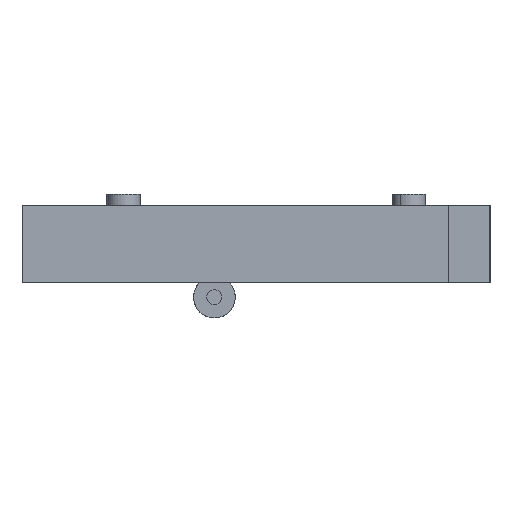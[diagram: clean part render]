
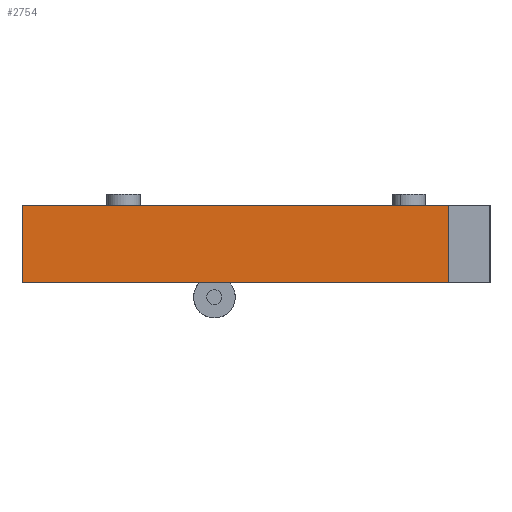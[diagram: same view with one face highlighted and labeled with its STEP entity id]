
A CAD part, left-side view. The second image highlights one B-rep face of the part: STEP entity #2754.
In plain terms, the highlighted planar face has unit normal (-1, 0, 0).
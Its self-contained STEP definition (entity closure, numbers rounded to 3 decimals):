
#73 = PLANE('',#74);
#74 = AXIS2_PLACEMENT_3D('',#75,#76,#77);
#75 = CARTESIAN_POINT('',(-70.39,-17.903,-18.));
#76 = DIRECTION('',(0.,0.,1.));
#77 = DIRECTION('',(1.,0.,-0.));
#334 = VERTEX_POINT('',#335);
#335 = CARTESIAN_POINT('',(-70.39,64.097,-18.));
#349 = PLANE('',#350);
#350 = AXIS2_PLACEMENT_3D('',#351,#352,#353);
#351 = CARTESIAN_POINT('',(-70.39,64.097,-18.));
#352 = DIRECTION('',(-0.,1.,0.));
#353 = DIRECTION('',(0.,0.,1.));
#361 = EDGE_CURVE('',#362,#334,#364,.T.);
#362 = VERTEX_POINT('',#363);
#363 = CARTESIAN_POINT('',(-70.39,-17.903,-18.));
#364 = SURFACE_CURVE('',#365,(#369,#376),.PCURVE_S1.);
#365 = LINE('',#366,#367);
#366 = CARTESIAN_POINT('',(-70.39,-17.903,-18.));
#367 = VECTOR('',#368,1.);
#368 = DIRECTION('',(-0.,1.,0.));
#369 = PCURVE('',#73,#370);
#370 = DEFINITIONAL_REPRESENTATION('',(#371),#375);
#371 = LINE('',#372,#373);
#372 = CARTESIAN_POINT('',(0.,0.));
#373 = VECTOR('',#374,1.);
#374 = DIRECTION('',(0.,1.));
#375 = ( GEOMETRIC_REPRESENTATION_CONTEXT(2) 
PARAMETRIC_REPRESENTATION_CONTEXT() REPRESENTATION_CONTEXT('2D SPACE',''
  ) );
#376 = PCURVE('',#377,#382);
#377 = PLANE('',#378);
#378 = AXIS2_PLACEMENT_3D('',#379,#380,#381);
#379 = CARTESIAN_POINT('',(-70.39,-17.903,-18.));
#380 = DIRECTION('',(1.,0.,-0.));
#381 = DIRECTION('',(0.,0.,1.));
#382 = DEFINITIONAL_REPRESENTATION('',(#383),#387);
#383 = LINE('',#384,#385);
#384 = CARTESIAN_POINT('',(0.,0.));
#385 = VECTOR('',#386,1.);
#386 = DIRECTION('',(0.,-1.));
#387 = ( GEOMETRIC_REPRESENTATION_CONTEXT(2) 
PARAMETRIC_REPRESENTATION_CONTEXT() REPRESENTATION_CONTEXT('2D SPACE',''
  ) );
#405 = PLANE('',#406);
#406 = AXIS2_PLACEMENT_3D('',#407,#408,#409);
#407 = CARTESIAN_POINT('',(-70.39,-17.903,-18.));
#408 = DIRECTION('',(-0.,1.,0.));
#409 = DIRECTION('',(0.,0.,1.));
#1532 = PLANE('',#1533);
#1533 = AXIS2_PLACEMENT_3D('',#1534,#1535,#1536);
#1534 = CARTESIAN_POINT('',(-70.39,-17.903,-3.15));
#1535 = DIRECTION('',(0.,0.,1.));
#1536 = DIRECTION('',(1.,0.,-0.));
#2710 = EDGE_CURVE('',#362,#2711,#2713,.T.);
#2711 = VERTEX_POINT('',#2712);
#2712 = CARTESIAN_POINT('',(-70.39,-17.903,-3.15));
#2713 = SURFACE_CURVE('',#2714,(#2718,#2725),.PCURVE_S1.);
#2714 = LINE('',#2715,#2716);
#2715 = CARTESIAN_POINT('',(-70.39,-17.903,-18.));
#2716 = VECTOR('',#2717,1.);
#2717 = DIRECTION('',(0.,0.,1.));
#2718 = PCURVE('',#405,#2719);
#2719 = DEFINITIONAL_REPRESENTATION('',(#2720),#2724);
#2720 = LINE('',#2721,#2722);
#2721 = CARTESIAN_POINT('',(0.,0.));
#2722 = VECTOR('',#2723,1.);
#2723 = DIRECTION('',(1.,0.));
#2724 = ( GEOMETRIC_REPRESENTATION_CONTEXT(2) 
PARAMETRIC_REPRESENTATION_CONTEXT() REPRESENTATION_CONTEXT('2D SPACE',''
  ) );
#2725 = PCURVE('',#377,#2726);
#2726 = DEFINITIONAL_REPRESENTATION('',(#2727),#2731);
#2727 = LINE('',#2728,#2729);
#2728 = CARTESIAN_POINT('',(0.,0.));
#2729 = VECTOR('',#2730,1.);
#2730 = DIRECTION('',(1.,0.));
#2731 = ( GEOMETRIC_REPRESENTATION_CONTEXT(2) 
PARAMETRIC_REPRESENTATION_CONTEXT() REPRESENTATION_CONTEXT('2D SPACE',''
  ) );
#2754 = ADVANCED_FACE('',(#2755),#377,.F.);
#2755 = FACE_BOUND('',#2756,.F.);
#2756 = EDGE_LOOP('',(#2757,#2758,#2759,#2782));
#2757 = ORIENTED_EDGE('',*,*,#2710,.F.);
#2758 = ORIENTED_EDGE('',*,*,#361,.T.);
#2759 = ORIENTED_EDGE('',*,*,#2760,.T.);
#2760 = EDGE_CURVE('',#334,#2761,#2763,.T.);
#2761 = VERTEX_POINT('',#2762);
#2762 = CARTESIAN_POINT('',(-70.39,64.097,-3.15));
#2763 = SURFACE_CURVE('',#2764,(#2768,#2775),.PCURVE_S1.);
#2764 = LINE('',#2765,#2766);
#2765 = CARTESIAN_POINT('',(-70.39,64.097,-18.));
#2766 = VECTOR('',#2767,1.);
#2767 = DIRECTION('',(0.,0.,1.));
#2768 = PCURVE('',#377,#2769);
#2769 = DEFINITIONAL_REPRESENTATION('',(#2770),#2774);
#2770 = LINE('',#2771,#2772);
#2771 = CARTESIAN_POINT('',(0.,-82.));
#2772 = VECTOR('',#2773,1.);
#2773 = DIRECTION('',(1.,0.));
#2774 = ( GEOMETRIC_REPRESENTATION_CONTEXT(2) 
PARAMETRIC_REPRESENTATION_CONTEXT() REPRESENTATION_CONTEXT('2D SPACE',''
  ) );
#2775 = PCURVE('',#349,#2776);
#2776 = DEFINITIONAL_REPRESENTATION('',(#2777),#2781);
#2777 = LINE('',#2778,#2779);
#2778 = CARTESIAN_POINT('',(0.,0.));
#2779 = VECTOR('',#2780,1.);
#2780 = DIRECTION('',(1.,0.));
#2781 = ( GEOMETRIC_REPRESENTATION_CONTEXT(2) 
PARAMETRIC_REPRESENTATION_CONTEXT() REPRESENTATION_CONTEXT('2D SPACE',''
  ) );
#2782 = ORIENTED_EDGE('',*,*,#2783,.F.);
#2783 = EDGE_CURVE('',#2711,#2761,#2784,.T.);
#2784 = SURFACE_CURVE('',#2785,(#2789,#2796),.PCURVE_S1.);
#2785 = LINE('',#2786,#2787);
#2786 = CARTESIAN_POINT('',(-70.39,-17.903,-3.15));
#2787 = VECTOR('',#2788,1.);
#2788 = DIRECTION('',(-0.,1.,0.));
#2789 = PCURVE('',#377,#2790);
#2790 = DEFINITIONAL_REPRESENTATION('',(#2791),#2795);
#2791 = LINE('',#2792,#2793);
#2792 = CARTESIAN_POINT('',(14.85,0.));
#2793 = VECTOR('',#2794,1.);
#2794 = DIRECTION('',(0.,-1.));
#2795 = ( GEOMETRIC_REPRESENTATION_CONTEXT(2) 
PARAMETRIC_REPRESENTATION_CONTEXT() REPRESENTATION_CONTEXT('2D SPACE',''
  ) );
#2796 = PCURVE('',#1532,#2797);
#2797 = DEFINITIONAL_REPRESENTATION('',(#2798),#2802);
#2798 = LINE('',#2799,#2800);
#2799 = CARTESIAN_POINT('',(0.,0.));
#2800 = VECTOR('',#2801,1.);
#2801 = DIRECTION('',(0.,1.));
#2802 = ( GEOMETRIC_REPRESENTATION_CONTEXT(2) 
PARAMETRIC_REPRESENTATION_CONTEXT() REPRESENTATION_CONTEXT('2D SPACE',''
  ) );
